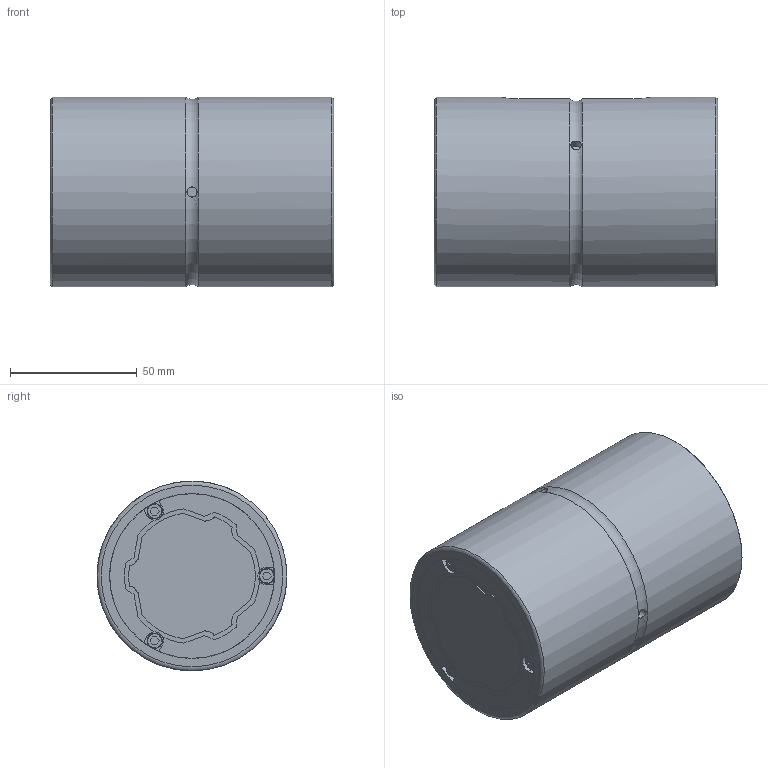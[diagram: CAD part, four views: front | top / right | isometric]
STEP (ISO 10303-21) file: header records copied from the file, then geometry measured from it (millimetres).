
FILE_DESCRIPTION(/* description */ ('STEP AP203'),/* implementation_level */ '2;1');
FILE_NAME(/* name */ 'SLS50L1112(00)',/* time_stamp */ '2024-05-23T11:47:03+02:00',/* author */ ('License CC BY-ND 4.0'),/* organization */ ('CADENAS'),/* preprocessor_version */ 'ST-DEVELOPER v19.3',/* originating_system */ 'PARTsolutions',/* authorisation */ ' ');
FILE_SCHEMA (('CONFIG_CONTROL_DESIGN'));
Length unit declared in the file: millimetre
Products named in the file (3): SLS50L1112(00); 50(L112); 50L cylinder
Assembly tree (2 placements, depth 2):
  SLS50L1112(00)
    50(L112)
    50L cylinder
Bounding box: 112 x 75 x 75 mm (x, y, z)
Volume: 489066.5 mm3; surface area: 72558.7 mm2
Topology: 2 solids, 2 shells, 242 faces, 676 edges, 451 vertices
Faces by surface type: plane 128, cylinder 105, torus 9
Full cylindrical faces by diameter (mm): 4 x3, 65 x2, 75 x2
Entity records: 7838 total; most frequent: CARTESIAN_POINT 1455, DIRECTION 1358, ORIENTED_EDGE 1300, EDGE_CURVE 650, AXIS2_PLACEMENT_3D 476, VERTEX_POINT 440, LINE 406, VECTOR 406
